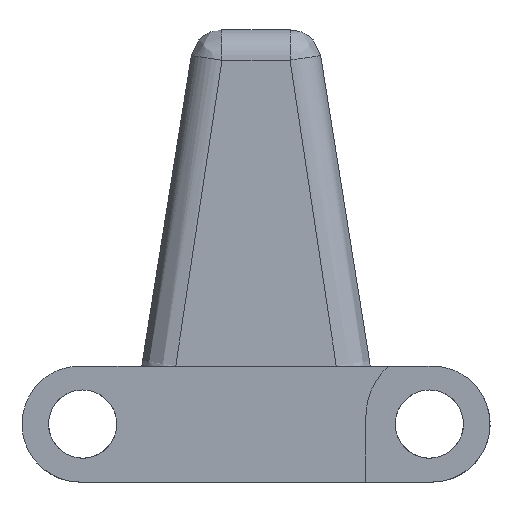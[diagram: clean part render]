
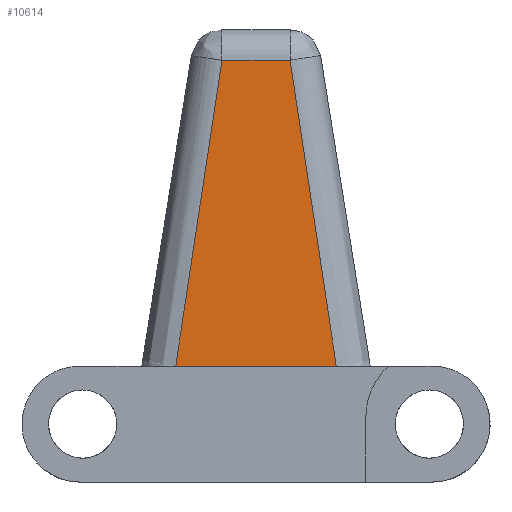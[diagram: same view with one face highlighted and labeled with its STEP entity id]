
A CAD part, front view. The second image highlights one B-rep face of the part: STEP entity #10614.
In plain terms, the highlighted planar face has unit normal (0, -1, 0.009).
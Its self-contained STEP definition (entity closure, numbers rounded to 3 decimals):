
#383 = CARTESIAN_POINT ( 'NONE',  ( -8.5, -72.698, 27.051 ) ) ;
#840 = AXIS2_PLACEMENT_3D ( 'NONE', #5862, #16698, #9941 ) ;
#995 = CARTESIAN_POINT ( 'NONE',  ( -4.825, -72.83, 11.884 ) ) ;
#1253 = EDGE_CURVE ( 'NONE', #3745, #15214, #6219, .T. ) ;
#2479 = ORIENTED_EDGE ( 'NONE', *, *, #4843, .T. ) ;
#2505 = VECTOR ( 'NONE', #15384, 1000. ) ;
#3745 = VERTEX_POINT ( 'NONE', #3821 ) ;
#3821 = CARTESIAN_POINT ( 'NONE',  ( 5.972, -72.896, 4.301 ) ) ;
#4453 = ORIENTED_EDGE ( 'NONE', *, *, #11571, .T. ) ;
#4693 = CARTESIAN_POINT ( 'NONE',  ( -5.971, -72.896, 4.301 ) ) ;
#4843 = EDGE_CURVE ( 'NONE', #15214, #8573, #8473, .T. ) ;
#5041 = CARTESIAN_POINT ( 'NONE',  ( 2.533, -72.698, 27.051 ) ) ;
#5776 = PLANE ( 'NONE',  #840 ) ;
#5862 = CARTESIAN_POINT ( 'NONE',  ( -8.5, -72.896, 4.301 ) ) ;
#5969 = DIRECTION ( 'NONE',  ( 1., 0., 0. ) ) ;
#5979 = VECTOR ( 'NONE', #5969, 1000. ) ;
#6219 = B_SPLINE_CURVE_WITH_KNOTS ( 'NONE', 3,
 ( #9297, #13209, #14721, #16049 ),
 .UNSPECIFIED., .F., .F.,
 ( 4, 4 ),
 ( 0., 0.91 ),
 .UNSPECIFIED. ) ;
#7130 = FACE_OUTER_BOUND ( 'NONE', #8482, .T. ) ;
#8473 = LINE ( 'NONE', #383, #2505 ) ;
#8482 = EDGE_LOOP ( 'NONE', ( #11887, #2479, #15254, #4453 ) ) ;
#8566 = B_SPLINE_CURVE_WITH_KNOTS ( 'NONE', 3,
 ( #10591, #14421, #995, #13263 ),
 .UNSPECIFIED., .F., .F.,
 ( 4, 4 ),
 ( 0.09, 1. ),
 .UNSPECIFIED. ) ;
#8573 = VERTEX_POINT ( 'NONE', #10791 ) ;
#9297 = CARTESIAN_POINT ( 'NONE',  ( 5.972, -72.896, 4.301 ) ) ;
#9941 = DIRECTION ( 'NONE',  ( 0., -0.009, -1. ) ) ;
#10591 = CARTESIAN_POINT ( 'NONE',  ( -2.532, -72.698, 27.051 ) ) ;
#10614 = ADVANCED_FACE ( 'NONE', ( #7130 ), #5776, .T. ) ;
#10791 = CARTESIAN_POINT ( 'NONE',  ( -2.532, -72.698, 27.051 ) ) ;
#11571 = EDGE_CURVE ( 'NONE', #12650, #3745, #13980, .T. ) ;
#11887 = ORIENTED_EDGE ( 'NONE', *, *, #1253, .T. ) ;
#12650 = VERTEX_POINT ( 'NONE', #4693 ) ;
#12728 = CARTESIAN_POINT ( 'NONE',  ( -8.5, -72.896, 4.301 ) ) ;
#13209 = CARTESIAN_POINT ( 'NONE',  ( 4.826, -72.83, 11.884 ) ) ;
#13263 = CARTESIAN_POINT ( 'NONE',  ( -5.971, -72.896, 4.301 ) ) ;
#13980 = LINE ( 'NONE', #12728, #5979 ) ;
#14421 = CARTESIAN_POINT ( 'NONE',  ( -3.678, -72.764, 19.468 ) ) ;
#14721 = CARTESIAN_POINT ( 'NONE',  ( 3.679, -72.764, 19.468 ) ) ;
#15214 = VERTEX_POINT ( 'NONE', #5041 ) ;
#15254 = ORIENTED_EDGE ( 'NONE', *, *, #15654, .T. ) ;
#15384 = DIRECTION ( 'NONE',  ( -1., 0., 0. ) ) ;
#15654 = EDGE_CURVE ( 'NONE', #8573, #12650, #8566, .T. ) ;
#16049 = CARTESIAN_POINT ( 'NONE',  ( 2.533, -72.698, 27.051 ) ) ;
#16698 = DIRECTION ( 'NONE',  ( 0., -1., 0.009 ) ) ;
